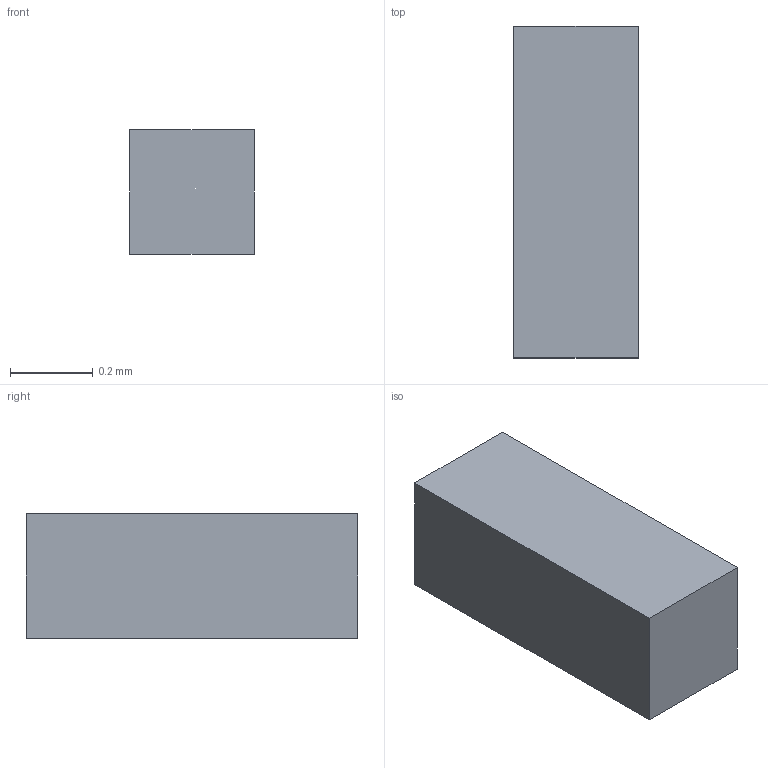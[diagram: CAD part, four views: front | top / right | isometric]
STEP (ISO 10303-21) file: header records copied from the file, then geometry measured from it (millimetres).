
FILE_DESCRIPTION(('Open CASCADE Model'),'2;1');
FILE_NAME('Open CASCADE Shape Model','2026-09-06T11:30:00',('Author'),( 'Open CASCADE'),'Open CASCADE STEP processor 7.7','Open CASCADE 7.7' ,'Unknown');
FILE_SCHEMA(('AUTOMOTIVE_DESIGN { 1 0 10303 214 1 1 1 1 }'));
Length unit declared in the file: millimetre
Products named in the file (1): Open CASCADE STEP translator 7.7 5
Bounding box: 0.3 x 0.8 x 0.3 mm (x, y, z)
Volume: 0.1 mm3; surface area: 1.1 mm2
Topology: 1 solids, 1 shells, 6 faces, 12 edges, 8 vertices
Faces by surface type: plane 6
Entity records: 322 total; most frequent: CARTESIAN_POINT 51, DIRECTION 50, LINE 36, VECTOR 36, ORIENTED_EDGE 24, PCURVE 24, DEFINITIONAL_REPRESENTATION 24, EDGE_CURVE 12
